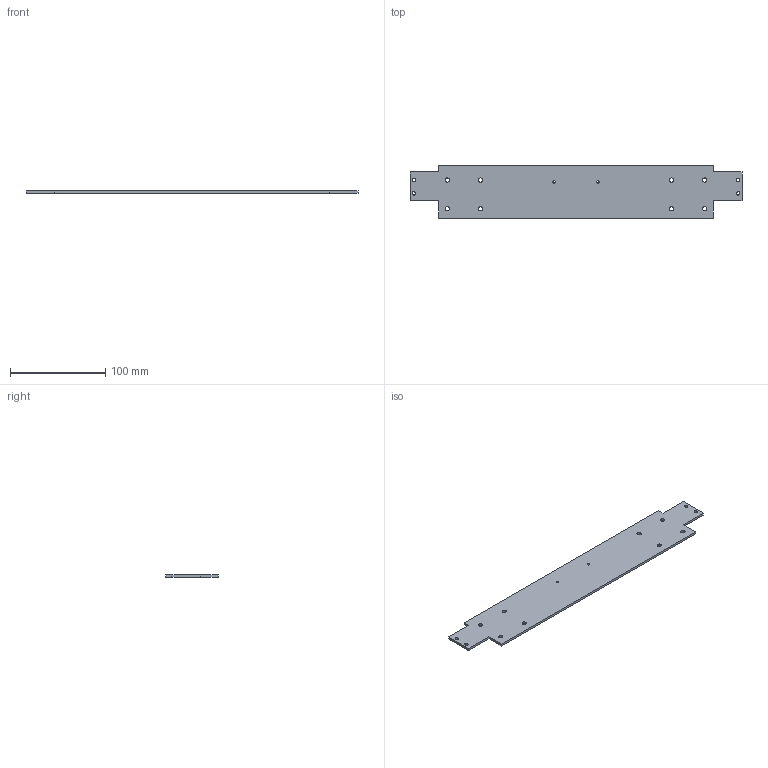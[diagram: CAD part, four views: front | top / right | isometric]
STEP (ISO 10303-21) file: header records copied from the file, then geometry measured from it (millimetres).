
FILE_DESCRIPTION(('Open CASCADE Model'),'2;1');
FILE_NAME('Open CASCADE Shape Model','2026-10-15T18:22:08',('Author'),( 'Open CASCADE'),'Open CASCADE STEP processor 7.9','Open CASCADE 7.9' ,'Unknown');
FILE_SCHEMA(('AUTOMOTIVE_DESIGN { 1 0 10303 214 1 1 1 1 }'));
Length unit declared in the file: millimetre
Products named in the file (1): Open CASCADE STEP translator 7.9 14
Bounding box: 348 x 55 x 2.5 mm (x, y, z)
Volume: 43657.1 mm3; surface area: 37375.8 mm2
Topology: 1 solids, 1 shells, 28 faces, 78 edges, 52 vertices
Faces by surface type: plane 14, cylinder 14
Full cylindrical faces by diameter (mm): 2.7 x2, 3.5 x4, 4.5 x8
Entity records: 1990 total; most frequent: DIRECTION 320, CARTESIAN_POINT 315, LINE 178, VECTOR 178, ORIENTED_EDGE 156, PCURVE 156, DEFINITIONAL_REPRESENTATION 156, EDGE_CURVE 78
